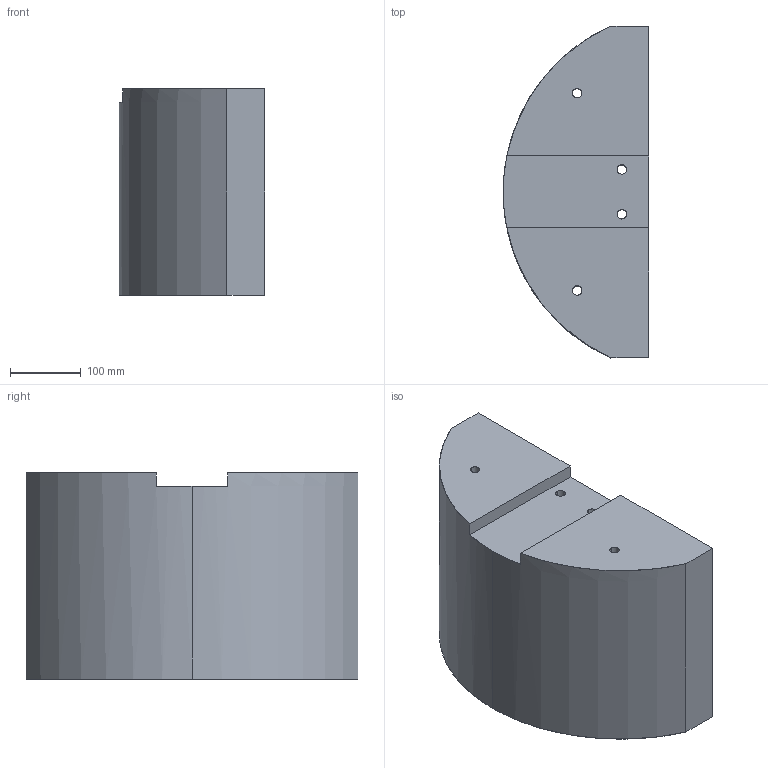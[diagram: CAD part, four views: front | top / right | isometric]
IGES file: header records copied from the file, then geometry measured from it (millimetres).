
Start section: SolidWorks IGES FILE using analytic representation for surfaces
Global section: file name: C:\Dorado\Drawings\ExtendedBatteryMidbody\Drawings\ExtMidbodyFoam.IGS; native system: SolidWorks 2003 by SolidWorks Corporation; preprocessor: Version 5.3; author: gashler; date: 030401.134017; units: inch
Bounding box: 206.38 x 469.9 x 292.1 mm (x, y, z)
Surface area: 546078.5 mm2 (no closed solid volume)
Topology: 0 solids, 0 shells, 19 faces, 388 edges, 388 vertices
Faces by surface type: revolution 10, bspline 9
